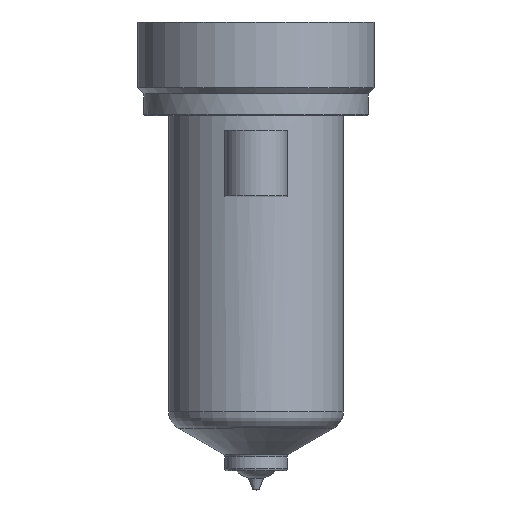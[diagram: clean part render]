
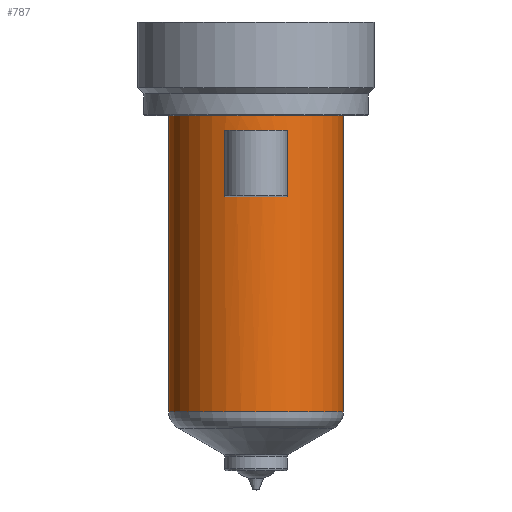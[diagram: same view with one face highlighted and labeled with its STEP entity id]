
A CAD part, top view. The second image highlights one B-rep face of the part: STEP entity #787.
In plain terms, the highlighted cylindrical face has radius 14 mm (diameter 28 mm), a partial arc.
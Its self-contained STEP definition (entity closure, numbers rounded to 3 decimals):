
#195=DIRECTION('',(0.,-1.,0.));
#196=VECTOR('',#195,47.483);
#197=CARTESIAN_POINT('',(14.,0.,0.));
#198=LINE('',#197,#196);
#199=CARTESIAN_POINT('',(0.,-47.483,0.));
#200=DIRECTION('',(0.,1.,0.));
#201=DIRECTION('',(-1.,0.,0.));
#202=AXIS2_PLACEMENT_3D('',#199,#200,#201);
#204=DIRECTION('',(0.,1.,0.));
#205=VECTOR('',#204,47.483);
#206=CARTESIAN_POINT('',(-14.,-47.483,0.));
#207=LINE('',#206,#205);
#208=CARTESIAN_POINT('',(0.,0.,0.));
#209=DIRECTION('',(0.,1.,0.));
#210=DIRECTION('',(-1.,0.,0.));
#211=AXIS2_PLACEMENT_3D('',#208,#209,#210);
#357=DIRECTION('',(0.,-1.,0.));
#358=VECTOR('',#357,10.5);
#359=CARTESIAN_POINT('',(-5.,-2.5,13.077));
#360=LINE('',#359,#358);
#365=CARTESIAN_POINT('',(0.,-13.,0.));
#366=DIRECTION('',(0.,1.,0.));
#367=DIRECTION('',(-0.357,0.,0.934));
#368=AXIS2_PLACEMENT_3D('',#365,#366,#367);
#400=CARTESIAN_POINT('',(0.,-2.5,0.));
#401=DIRECTION('',(0.,-1.,0.));
#402=DIRECTION('',(0.357,0.,0.934));
#403=AXIS2_PLACEMENT_3D('',#400,#401,#402);
#405=DIRECTION('',(0.,-1.,0.));
#406=VECTOR('',#405,10.5);
#407=CARTESIAN_POINT('',(5.,-2.5,13.077));
#408=LINE('',#407,#406);
#466=CARTESIAN_POINT('',(-14.,0.,0.));
#467=CARTESIAN_POINT('',(14.,0.,0.));
#468=VERTEX_POINT('',#466);
#469=VERTEX_POINT('',#467);
#478=CARTESIAN_POINT('',(5.,-2.5,13.077));
#479=VERTEX_POINT('',#478);
#480=CARTESIAN_POINT('',(-5.,-2.5,13.077));
#481=VERTEX_POINT('',#480);
#518=CARTESIAN_POINT('',(14.,-47.483,0.));
#519=VERTEX_POINT('',#518);
#528=CARTESIAN_POINT('',(-14.,-47.483,0.));
#529=VERTEX_POINT('',#528);
#546=CARTESIAN_POINT('',(-5.,-13.,13.077));
#547=CARTESIAN_POINT('',(5.,-13.,13.077));
#548=VERTEX_POINT('',#546);
#549=VERTEX_POINT('',#547);
#765=CARTESIAN_POINT('',(0.,16.4,0.));
#766=DIRECTION('',(0.,-1.,0.));
#767=DIRECTION('',(-1.,0.,0.));
#768=AXIS2_PLACEMENT_3D('',#765,#766,#767);
#769=CYLINDRICAL_SURFACE('',#768,14.);
#770=ORIENTED_EDGE('',*,*,#759,.T.);
#772=ORIENTED_EDGE('',*,*,#771,.F.);
#773=ORIENTED_EDGE('',*,*,#755,.T.);
#774=ORIENTED_EDGE('',*,*,#745,.T.);
#775=EDGE_LOOP('',(#770,#772,#773,#774));
#776=FACE_OUTER_BOUND('',#775,.F.);
#778=ORIENTED_EDGE('',*,*,#777,.T.);
#780=ORIENTED_EDGE('',*,*,#779,.T.);
#782=ORIENTED_EDGE('',*,*,#781,.F.);
#784=ORIENTED_EDGE('',*,*,#783,.T.);
#785=EDGE_LOOP('',(#778,#780,#782,#784));
#786=FACE_BOUND('',#785,.F.);
#787=ADVANCED_FACE('',(#776,#786),#769,.T.);
#203=CIRCLE('',#202,14.);
#212=CIRCLE('',#211,14.);
#369=CIRCLE('',#368,14.);
#404=CIRCLE('',#403,14.);
#745=EDGE_CURVE('',#468,#469,#212,.T.);
#755=EDGE_CURVE('',#529,#468,#207,.T.);
#759=EDGE_CURVE('',#469,#519,#198,.T.);
#771=EDGE_CURVE('',#529,#519,#203,.T.);
#777=EDGE_CURVE('',#481,#548,#360,.T.);
#779=EDGE_CURVE('',#548,#549,#369,.T.);
#781=EDGE_CURVE('',#479,#549,#408,.T.);
#783=EDGE_CURVE('',#479,#481,#404,.T.);
